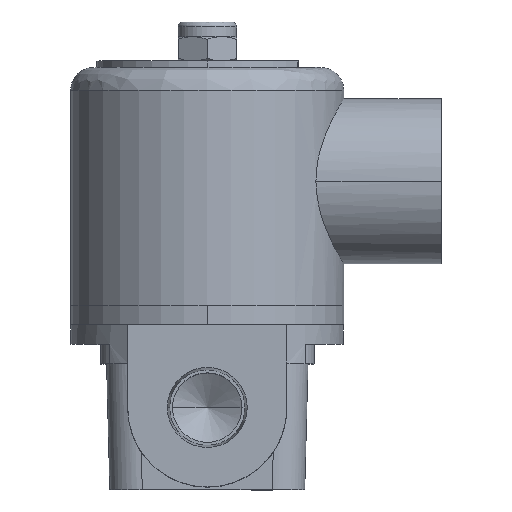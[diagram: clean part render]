
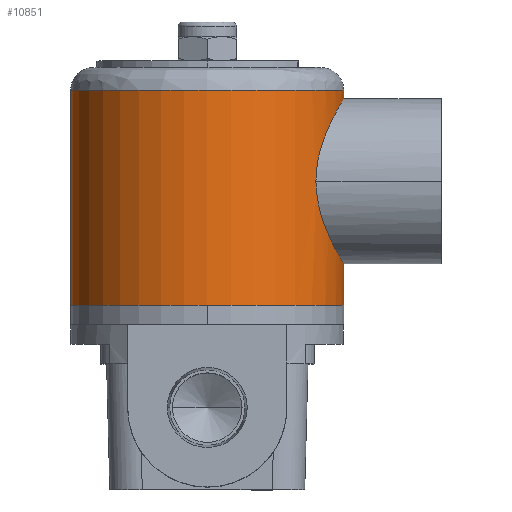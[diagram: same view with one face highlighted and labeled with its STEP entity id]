
A CAD part, top view. The second image highlights one B-rep face of the part: STEP entity #10851.
In plain terms, the highlighted cylindrical face has radius 21 mm (diameter 42 mm), a partial arc.
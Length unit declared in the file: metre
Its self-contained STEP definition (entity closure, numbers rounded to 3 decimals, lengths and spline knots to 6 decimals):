
#243 = EDGE_CURVE ( 'NONE', #12053, #4926, #10315, .T. ) ;
#453 = EDGE_CURVE ( 'NONE', #12283, #9658, #11634, .T. ) ;
#495 = EDGE_CURVE ( 'NONE', #8933, #12533, #1060, .T. ) ;
#566 = EDGE_CURVE ( 'NONE', #13186, #12053, #7113, .T. ) ;
#572 = CARTESIAN_POINT ( 'NONE',  ( 0., 0.0491, 0.021 ) ) ;
#692 = CARTESIAN_POINT ( 'NONE',  ( -0.009557, 0.026726, 0.018702 ) ) ;
#790 = CARTESIAN_POINT ( 'NONE',  ( -0.004566, 0.023242, 0.020501 ) ) ;
#815 = EDGE_LOOP ( 'NONE', ( #1332, #7754, #2957, #4980, #5340, #6478, #13665 ) ) ;
#1053 = CARTESIAN_POINT ( 'NONE',  ( -0.012007, 0.03926, 0.01723 ) ) ;
#1060 = LINE ( 'NONE', #13698, #9553 ) ;
#1104 = CARTESIAN_POINT ( 'NONE',  ( -0.004176, 0.047101, 0.020585 ) ) ;
#1332 = ORIENTED_EDGE ( 'NONE', *, *, #453, .F. ) ;
#1508 = CARTESIAN_POINT ( 'NONE',  ( -0.001708, 0.022487, 0.020947 ) ) ;
#1792 = CARTESIAN_POINT ( 'NONE',  ( -0.010318, 0.027684, 0.018292 ) ) ;
#1813 = CARTESIAN_POINT ( 'NONE',  ( 0., 0.016, 0.021 ) ) ;
#1881 = CARTESIAN_POINT ( 'NONE',  ( -0.00336, 0.022845, 0.020734 ) ) ;
#2112 = DIRECTION ( 'NONE',  ( 0., -1., 0. ) ) ;
#2149 = CARTESIAN_POINT ( 'NONE',  ( -0.011383, 0.040792, 0.017652 ) ) ;
#2193 = CARTESIAN_POINT ( 'NONE',  ( -0.002954, 0.047459, 0.020795 ) ) ;
#2846 = CARTESIAN_POINT ( 'NONE',  ( -0.012006, 0.030937, 0.01723 ) ) ;
#2957 = ORIENTED_EDGE ( 'NONE', *, *, #566, .T. ) ;
#3134 = CARTESIAN_POINT ( 'NONE',  ( -0.0127, 0.0351, 0.016725 ) ) ;
#3171 = CARTESIAN_POINT ( 'NONE',  ( -0.010079, 0.042871, 0.018431 ) ) ;
#3211 = CARTESIAN_POINT ( 'NONE',  ( -0.000864, 0.0478, 0.021 ) ) ;
#3618 = FACE_OUTER_BOUND ( 'NONE', #815, .T. ) ;
#3800 = CIRCLE ( 'NONE', #11474, 0.021 ) ;
#3870 = CARTESIAN_POINT ( 'NONE',  ( -0.01236, 0.032153, 0.016977 ) ) ;
#4077 = DIRECTION ( 'NONE',  ( 0., 1., 0. ) ) ;
#4089 = VECTOR ( 'NONE', #6431, 1. ) ;
#4210 = CARTESIAN_POINT ( 'NONE',  ( -0.008709, 0.044352, 0.019111 ) ) ;
#4281 = CARTESIAN_POINT ( 'NONE',  ( 0., 0.0478, 0.021 ) ) ;
#4296 = CARTESIAN_POINT ( 'NONE',  ( -0.0127, 0.0351, 0.016725 ) ) ;
#4503 = DIRECTION ( 'NONE',  ( 0., 0., 1. ) ) ;
#4632 = CARTESIAN_POINT ( 'NONE',  ( 0., 0.016, 0. ) ) ;
#4679 = CARTESIAN_POINT ( 'NONE',  ( -0.010997, 0.028695, 0.017898 ) ) ;
#4903 = AXIS2_PLACEMENT_3D ( 'NONE', #8296, #2112, #9407 ) ;
#4909 = CARTESIAN_POINT ( 'NONE',  ( -0.0127, 0.034235, 0.016725 ) ) ;
#4926 = VERTEX_POINT ( 'NONE', #4296 ) ;
#4946 = CARTESIAN_POINT ( 'NONE',  ( -0.008431, 0.025567, 0.019244 ) ) ;
#4980 = ORIENTED_EDGE ( 'NONE', *, *, #243, .T. ) ;
#4996 = CARTESIAN_POINT ( 'NONE',  ( 0., 0.0224, 0.021 ) ) ;
#5245 = CARTESIAN_POINT ( 'NONE',  ( -0.00778, 0.045146, 0.019509 ) ) ;
#5340 = ORIENTED_EDGE ( 'NONE', *, *, #12832, .T. ) ;
#5629 = CARTESIAN_POINT ( 'NONE',  ( 0., 0.0224, 0.021 ) ) ;
#5995 = CARTESIAN_POINT ( 'NONE',  ( -0.005716, 0.023729, 0.020222 ) ) ;
#6045 = CYLINDRICAL_SURFACE ( 'NONE', #12120, 0.021 ) ;
#6214 = DIRECTION ( 'NONE',  ( 0., 1., 0. ) ) ;
#6235 = CARTESIAN_POINT ( 'NONE',  ( -0.012613, 0.036807, 0.016792 ) ) ;
#6279 = CARTESIAN_POINT ( 'NONE',  ( -0.006435, 0.04608, 0.020003 ) ) ;
#6431 = DIRECTION ( 'NONE',  ( 0., 1., 0. ) ) ;
#6478 = ORIENTED_EDGE ( 'NONE', *, *, #495, .T. ) ;
#6562 = DIRECTION ( 'NONE',  ( 0., 1., 0. ) ) ;
#6902 = CARTESIAN_POINT ( 'NONE',  ( -0.009286, 0.026426, 0.018838 ) ) ;
#7113 = LINE ( 'NONE', #9556, #4089 ) ;
#7230 = EDGE_CURVE ( 'NONE', #13186, #12283, #9934, .T. ) ;
#7232 = CARTESIAN_POINT ( 'NONE',  ( -0.012257, 0.038453, 0.017053 ) ) ;
#7281 = CARTESIAN_POINT ( 'NONE',  ( -0.00457, 0.046957, 0.020501 ) ) ;
#7754 = ORIENTED_EDGE ( 'NONE', *, *, #7230, .F. ) ;
#7886 = VECTOR ( 'NONE', #11483, 1. ) ;
#7968 = CARTESIAN_POINT ( 'NONE',  ( -0.010073, 0.027355, 0.018429 ) ) ;
#8060 = CARTESIAN_POINT ( 'NONE',  ( -0.004171, 0.023097, 0.020586 ) ) ;
#8296 = CARTESIAN_POINT ( 'NONE',  ( 0., 0.016, 0. ) ) ;
#8328 = CARTESIAN_POINT ( 'NONE',  ( -0.011864, 0.039651, 0.017329 ) ) ;
#8373 = CARTESIAN_POINT ( 'NONE',  ( -0.003364, 0.047354, 0.020733 ) ) ;
#8933 = VERTEX_POINT ( 'NONE', #4281 ) ;
#9060 = CARTESIAN_POINT ( 'NONE',  ( -0.007805, 0.025048, 0.019509 ) ) ;
#9171 = CARTESIAN_POINT ( 'NONE',  ( -0.00295, 0.02274, 0.020796 ) ) ;
#9392 = CARTESIAN_POINT ( 'NONE',  ( -0.0127, 0.035964, 0.016725 ) ) ;
#9407 = DIRECTION ( 'NONE',  ( 0., 0., 1. ) ) ;
#9439 = EDGE_CURVE ( 'NONE', #9658, #12533, #3800, .T. ) ;
#9442 = CARTESIAN_POINT ( 'NONE',  ( -0.010993, 0.041512, 0.017901 ) ) ;
#9498 = CARTESIAN_POINT ( 'NONE',  ( -0.00171, 0.047713, 0.020947 ) ) ;
#9553 = VECTOR ( 'NONE', #6214, 1. ) ;
#9556 = CARTESIAN_POINT ( 'NONE',  ( 0., 0.016, 0.021 ) ) ;
#9658 = VERTEX_POINT ( 'NONE', #11911 ) ;
#9701 = CARTESIAN_POINT ( 'NONE',  ( 0., 0.016, -0.021 ) ) ;
#9934 = CIRCLE ( 'NONE', #4903, 0.021 ) ;
#10205 = CARTESIAN_POINT ( 'NONE',  ( -0.012256, 0.031744, 0.017053 ) ) ;
#10293 = CARTESIAN_POINT ( 'NONE',  ( -0.011863, 0.030547, 0.017329 ) ) ;
#10315 = B_SPLINE_CURVE_WITH_KNOTS ( 'NONE', 3,
 ( #4996, #12495, #1508, #9171, #1881, #8060, #790, #5995, #12455, #9060, #4946, #6902, #692, #7968, #1792, #4679, #13477, #10293, #2846, #10205, #3870, #11289, #4909, #12403 ),
 .UNSPECIFIED., .F., .F.,
 ( 4, 2, 2, 2, 2, 2, 2, 2, 2, 2, 2, 4 ),
 ( -0.040833, -0.03828, -0.037004, -0.035727, -0.033174, -0.030621, -0.029345, -0.028068, -0.025515, -0.024239, -0.022962, -0.02041 ),
 .UNSPECIFIED. ) ;
#10417 = CARTESIAN_POINT ( 'NONE',  ( 0., 0.0491, 0. ) ) ;
#10436 = CARTESIAN_POINT ( 'NONE',  ( 0., 0.016, -0.021 ) ) ;
#10557 = CARTESIAN_POINT ( 'NONE',  ( -0.009565, 0.043494, 0.018706 ) ) ;
#10600 = CARTESIAN_POINT ( 'NONE',  ( 0., 0.0478, 0.021 ) ) ;
#10851 = ADVANCED_FACE ( 'NONE', ( #3618 ), #6045, .T. ) ;
#11289 = CARTESIAN_POINT ( 'NONE',  ( -0.012613, 0.033391, 0.016792 ) ) ;
#11383 = B_SPLINE_CURVE_WITH_KNOTS ( 'NONE', 3,
 ( #3134, #9392, #6235, #13724, #7232, #1053, #8328, #2149, #9442, #3171, #10557, #4210, #11656, #5245, #12755, #6279, #13768, #7281, #1104, #8373, #2193, #9498, #3211, #10600 ),
 .UNSPECIFIED., .F., .F.,
 ( 4, 2, 2, 2, 2, 2, 2, 2, 2, 2, 2, 4 ),
 ( -0.02041, -0.017858, -0.016583, -0.015307, -0.012756, -0.010205, -0.008929, -0.007654, -0.005102, -0.003827, -0.002551, 0. ),
 .UNSPECIFIED. ) ;
#11474 = AXIS2_PLACEMENT_3D ( 'NONE', #10417, #4077, #11512 ) ;
#11483 = DIRECTION ( 'NONE',  ( 0., 1., 0. ) ) ;
#11512 = DIRECTION ( 'NONE',  ( 0., 0., 1. ) ) ;
#11634 = LINE ( 'NONE', #10436, #7886 ) ;
#11656 = CARTESIAN_POINT ( 'NONE',  ( -0.00841, 0.044625, 0.019246 ) ) ;
#11911 = CARTESIAN_POINT ( 'NONE',  ( 0., 0.0491, -0.021 ) ) ;
#12053 = VERTEX_POINT ( 'NONE', #5629 ) ;
#12120 = AXIS2_PLACEMENT_3D ( 'NONE', #4632, #6562, #4503 ) ;
#12283 = VERTEX_POINT ( 'NONE', #9701 ) ;
#12403 = CARTESIAN_POINT ( 'NONE',  ( -0.0127, 0.0351, 0.016725 ) ) ;
#12455 = CARTESIAN_POINT ( 'NONE',  ( -0.006439, 0.024123, 0.020002 ) ) ;
#12495 = CARTESIAN_POINT ( 'NONE',  ( -0.000863, 0.0224, 0.021 ) ) ;
#12533 = VERTEX_POINT ( 'NONE', #572 ) ;
#12755 = CARTESIAN_POINT ( 'NONE',  ( -0.00745, 0.045393, 0.019637 ) ) ;
#12832 = EDGE_CURVE ( 'NONE', #4926, #8933, #11383, .T. ) ;
#13186 = VERTEX_POINT ( 'NONE', #1813 ) ;
#13477 = CARTESIAN_POINT ( 'NONE',  ( -0.011383, 0.029409, 0.017651 ) ) ;
#13665 = ORIENTED_EDGE ( 'NONE', *, *, #9439, .F. ) ;
#13698 = CARTESIAN_POINT ( 'NONE',  ( 0., 0.016, 0.021 ) ) ;
#13724 = CARTESIAN_POINT ( 'NONE',  ( -0.012361, 0.038045, 0.016977 ) ) ;
#13768 = CARTESIAN_POINT ( 'NONE',  ( -0.005716, 0.046471, 0.020222 ) ) ;
